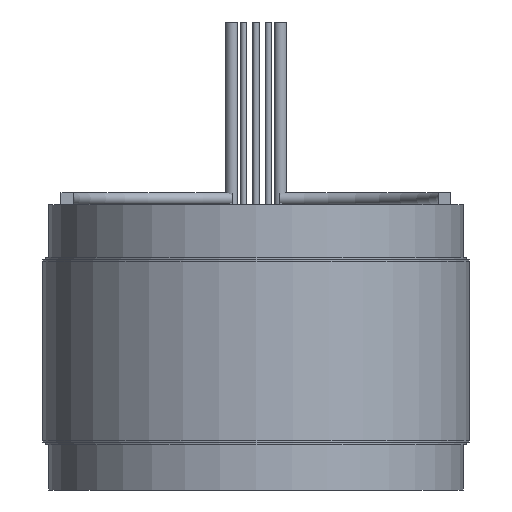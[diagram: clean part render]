
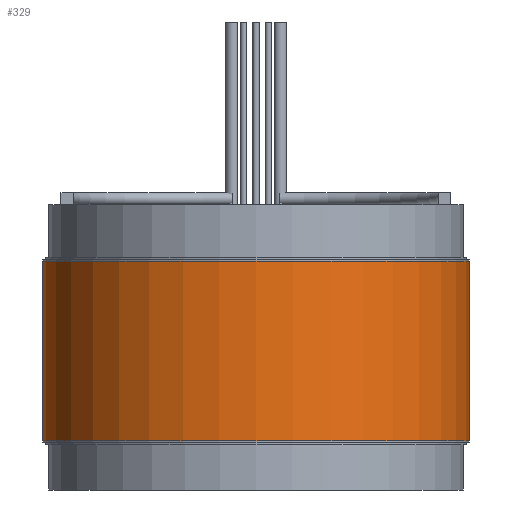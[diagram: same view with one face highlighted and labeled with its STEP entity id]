
A CAD part, front view. The second image highlights one B-rep face of the part: STEP entity #329.
In plain terms, the highlighted cylindrical face has radius 44.45 mm (diameter 88.9 mm), a full revolution.
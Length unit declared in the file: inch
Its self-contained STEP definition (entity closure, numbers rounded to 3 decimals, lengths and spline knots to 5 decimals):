
#192 = AXIS2_PLACEMENT_3D ( 'NONE', #1084, #1095, #408 ) ;
#204 = DIRECTION ( 'NONE',  ( 1., 0., 0. ) ) ;
#221 = DIRECTION ( 'NONE',  ( 1., 0., 0. ) ) ;
#226 = DIRECTION ( 'NONE',  ( 0., 0., 1. ) ) ;
#329 = ADVANCED_FACE ( 'NONE', ( #1420, #1284 ), #773, .T. ) ;
#337 = CARTESIAN_POINT ( 'NONE',  ( 0., 0., 0.736 ) ) ;
#356 = EDGE_CURVE ( 'NONE', #1147, #1147, #1680, .T. ) ;
#408 = DIRECTION ( 'NONE',  ( 1., 0., 0. ) ) ;
#487 = CARTESIAN_POINT ( 'NONE',  ( 1.75, 0., 0.736 ) ) ;
#623 = DIRECTION ( 'NONE',  ( 0., 0., 1. ) ) ;
#730 = AXIS2_PLACEMENT_3D ( 'NONE', #903, #226, #221 ) ;
#773 = CYLINDRICAL_SURFACE ( 'NONE', #192, 1.75 ) ;
#804 = EDGE_LOOP ( 'NONE', ( #819 ) ) ;
#819 = ORIENTED_EDGE ( 'NONE', *, *, #1137, .T. ) ;
#903 = CARTESIAN_POINT ( 'NONE',  ( 0., 0., -0.736 ) ) ;
#920 = ORIENTED_EDGE ( 'NONE', *, *, #356, .F. ) ;
#1084 = CARTESIAN_POINT ( 'NONE',  ( 0., 0., -0.77 ) ) ;
#1095 = DIRECTION ( 'NONE',  ( 0., 0., 1. ) ) ;
#1137 = EDGE_CURVE ( 'NONE', #1456, #1456, #1489, .T. ) ;
#1147 = VERTEX_POINT ( 'NONE', #487 ) ;
#1284 = FACE_OUTER_BOUND ( 'NONE', #804, .T. ) ;
#1301 = CARTESIAN_POINT ( 'NONE',  ( 1.75, 0., -0.736 ) ) ;
#1384 = EDGE_LOOP ( 'NONE', ( #920 ) ) ;
#1420 = FACE_OUTER_BOUND ( 'NONE', #1384, .T. ) ;
#1428 = AXIS2_PLACEMENT_3D ( 'NONE', #337, #623, #204 ) ;
#1456 = VERTEX_POINT ( 'NONE', #1301 ) ;
#1489 = CIRCLE ( 'NONE', #730, 1.75 ) ;
#1680 = CIRCLE ( 'NONE', #1428, 1.75 ) ;
